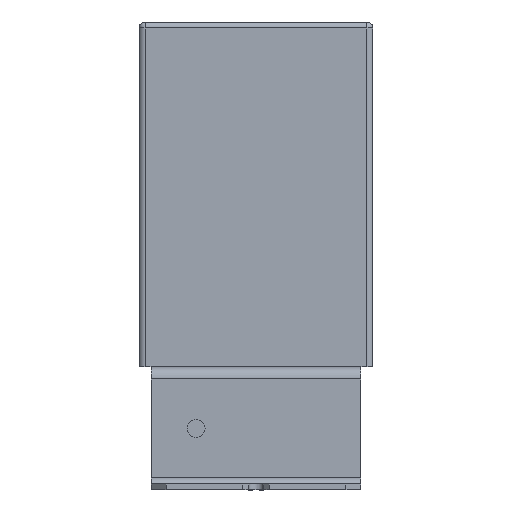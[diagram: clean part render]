
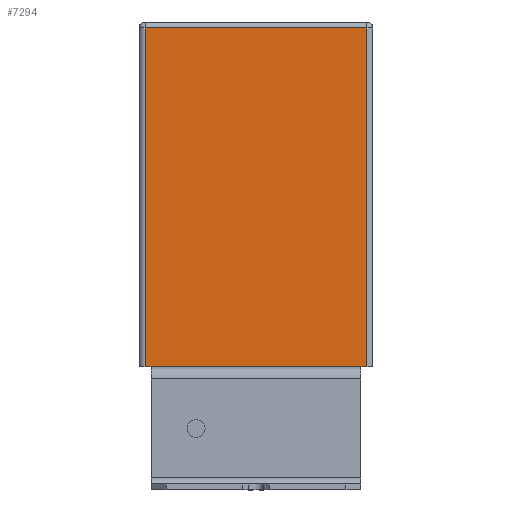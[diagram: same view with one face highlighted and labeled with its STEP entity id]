
A CAD part, front view. The second image highlights one B-rep face of the part: STEP entity #7294.
In plain terms, the highlighted planar face has unit normal (0, -1, 0).
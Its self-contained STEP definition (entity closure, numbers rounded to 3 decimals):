
#537=FACE_OUTER_BOUND('',#1025,.T.);
#1025=EDGE_LOOP('',(#6515,#6516,#6517,#6518,#6519,#6520));
#1451=LINE('',#10279,#2414);
#1901=LINE('',#11202,#2864);
#1904=LINE('',#11216,#2867);
#1908=LINE('',#11222,#2871);
#1915=LINE('',#11235,#2878);
#1984=LINE('',#11393,#2947);
#2414=VECTOR('',#8225,10.);
#2864=VECTOR('',#9179,10.);
#2867=VECTOR('',#9194,10.);
#2871=VECTOR('',#9202,10.);
#2878=VECTOR('',#9217,10.);
#2947=VECTOR('',#9360,10.);
#3332=VERTEX_POINT('',#10276);
#3333=VERTEX_POINT('',#10278);
#3554=VERTEX_POINT('',#11198);
#3555=VERTEX_POINT('',#11205);
#3558=VERTEX_POINT('',#11212);
#3561=VERTEX_POINT('',#11234);
#4029=EDGE_CURVE('',#3333,#3332,#1451,.T.);
#4491=EDGE_CURVE('',#3333,#3554,#1901,.T.);
#4498=EDGE_CURVE('',#3555,#3558,#1904,.T.);
#4502=EDGE_CURVE('',#3554,#3555,#1908,.T.);
#4509=EDGE_CURVE('',#3561,#3558,#1915,.T.);
#4586=EDGE_CURVE('',#3561,#3332,#1984,.T.);
#6515=ORIENTED_EDGE('',*,*,#4491,.F.);
#6516=ORIENTED_EDGE('',*,*,#4029,.T.);
#6517=ORIENTED_EDGE('',*,*,#4586,.F.);
#6518=ORIENTED_EDGE('',*,*,#4509,.T.);
#6519=ORIENTED_EDGE('',*,*,#4498,.F.);
#6520=ORIENTED_EDGE('',*,*,#4502,.F.);
#6950=PLANE('',#7690);
#7294=ADVANCED_FACE('',(#537),#6950,.T.);
#7690=AXIS2_PLACEMENT_3D('',#11392,#9358,#9359);
#8225=DIRECTION('',(1.,0.,0.));
#9179=DIRECTION('',(0.,0.,1.));
#9194=DIRECTION('',(0.,0.,-1.));
#9202=DIRECTION('',(1.,0.,0.));
#9217=DIRECTION('',(1.,0.,0.));
#9358=DIRECTION('center_axis',(0.,-1.,0.));
#9359=DIRECTION('ref_axis',(1.,0.,0.));
#9360=DIRECTION('',(-1.,0.,0.));
#10276=CARTESIAN_POINT('',(-35.,-238.,2.));
#10278=CARTESIAN_POINT('',(-37.,-238.,2.));
#10279=CARTESIAN_POINT('',(-39.,-238.,2.));
#11198=CARTESIAN_POINT('',(-37.,-238.,115.));
#11202=CARTESIAN_POINT('',(-37.,-238.,2.));
#11205=CARTESIAN_POINT('',(37.,-238.,115.));
#11212=CARTESIAN_POINT('',(37.,-238.,2.));
#11216=CARTESIAN_POINT('',(37.,-238.,2.));
#11222=CARTESIAN_POINT('',(-19.5,-238.,115.));
#11234=CARTESIAN_POINT('',(35.,-238.,2.));
#11235=CARTESIAN_POINT('',(-39.,-238.,2.));
#11392=CARTESIAN_POINT('Origin',(-39.,-238.,2.));
#11393=CARTESIAN_POINT('',(0.,-238.,2.));
